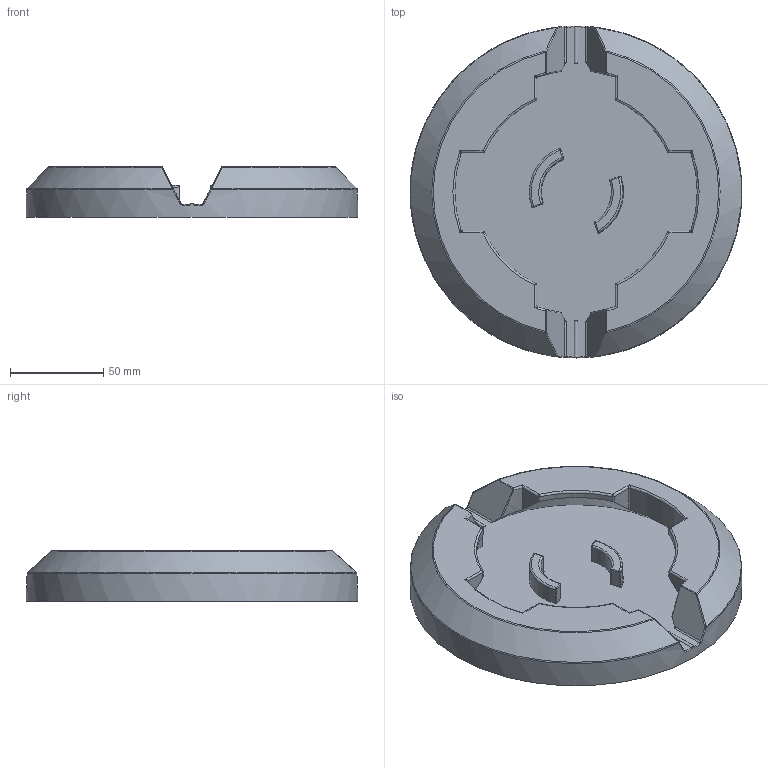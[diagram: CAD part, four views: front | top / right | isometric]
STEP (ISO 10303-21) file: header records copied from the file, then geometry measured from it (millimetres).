
FILE_DESCRIPTION(/* description */ (''),/* implementation_level */ '2;1');
FILE_NAME(/* name */ 'O:\ils2000\Natallia\INVENTOR\AutoCAD stp\NAVACQS\DF-66.stp',/* time_stamp */ '2016-08-12T11:44:51+02:00',/* author */ ('natallia'),/* organization */ (''),/* preprocessor_version */ 'ST-DEVELOPER v16.5',/* originating_system */ 'Autodesk Inventor 2017',/* authorisation */ '');
FILE_SCHEMA (('AUTOMOTIVE_DESIGN { 1 0 10303 214 3 1 1 }'));
Length unit declared in the file: millimetre
Products named in the file (1): DF-66
Bounding box: 178 x 178 x 27 mm (x, y, z)
Volume: 374398.1 mm3; surface area: 75911.1 mm2
Topology: 1 solids, 1 shells, 170 faces, 408 edges, 236 vertices
Faces by surface type: cylinder 60, bspline 46, torus 24, plane 23, cone 9, sphere 8
Full cylindrical faces by diameter (mm): 178 x1
Entity records: 6324 total; most frequent: CARTESIAN_POINT 2615, ORIENTED_EDGE 800, DIRECTION 745, EDGE_CURVE 400, AXIS2_PLACEMENT_3D 323, VERTEX_POINT 235, EDGE_LOOP 173, FACE_OUTER_BOUND 170
